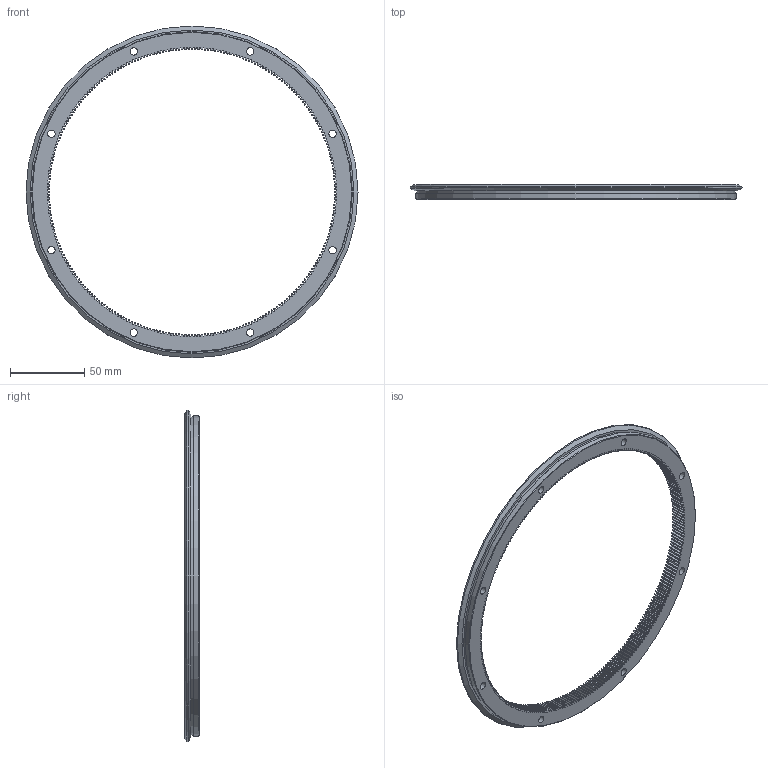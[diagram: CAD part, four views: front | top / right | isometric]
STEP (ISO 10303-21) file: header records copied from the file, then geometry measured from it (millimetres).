
FILE_DESCRIPTION(('STEP AP203'),'1');
FILE_NAME('REV 223 R360 Q.stp','2022-07-19T05:00:49',(' '),(' '),'Spatial InterOp 3D',' ',' ');
FILE_SCHEMA(('CONFIG_CONTROL_DESIGN'));
Length unit declared in the file: millimetre
Products named in the file (1): REV 223 R360 Q
Bounding box: 223.39 x 10 x 223.39 mm (x, y, z)
Volume: 77174.7 mm3; surface area: 38226.6 mm2
Topology: 1 solids, 1 shells, 1414 faces, 4211 edges, 2809 vertices
Faces by surface type: cylinder 570, plane 564, cone 279, torus 1
Full cylindrical faces by diameter (mm): 5 x8, 8 x8, 214.6 x1, 215.8 x1
Entity records: 48324 total; most frequent: CARTESIAN_POINT 10053, ORIENTED_EDGE 8362, DIRECTION 7880, EDGE_CURVE 4181, AXIS2_PLACEMENT_3D 2836, VERTEX_POINT 2801, LINE 2208, VECTOR 2208
